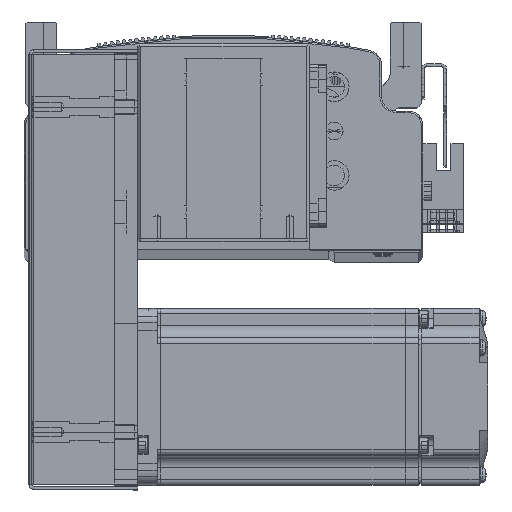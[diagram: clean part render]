
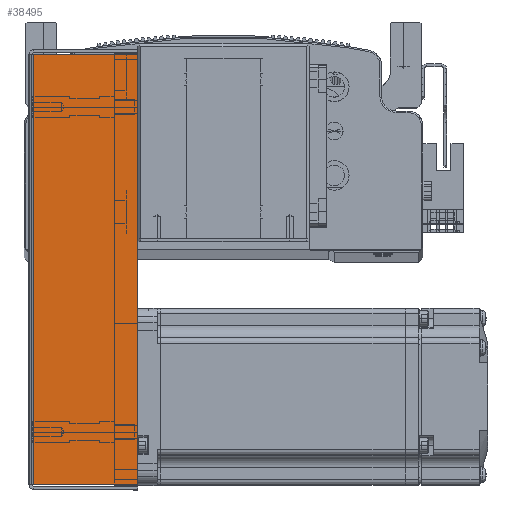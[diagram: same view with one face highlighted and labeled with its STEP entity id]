
A CAD part, top view. The second image highlights one B-rep face of the part: STEP entity #38495.
In plain terms, the highlighted planar face has unit normal (0, 0, 1) as drawn and (0, 0, -1) by its records, which use the part's own axes.
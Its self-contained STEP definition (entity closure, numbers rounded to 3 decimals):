
#14877 = EDGE_CURVE ( 'NONE', #59257, #59327, #49044, .T. ) ;
#14894 = EDGE_CURVE ( 'NONE', #59329, #59327, #49146, .T. ) ;
#14899 = EDGE_CURVE ( 'NONE', #59321, #59257, #49157, .T. ) ;
#14903 = EDGE_CURVE ( 'NONE', #59321, #59329, #49243, .T. ) ;
#28257 = ORIENTED_EDGE ( 'NONE', *, *, #14894, .F. ) ;
#28329 = ORIENTED_EDGE ( 'NONE', *, *, #14877, .T. ) ;
#28365 = ORIENTED_EDGE ( 'NONE', *, *, #14903, .F. ) ;
#28385 = ORIENTED_EDGE ( 'NONE', *, *, #14899, .T. ) ;
#29076 = EDGE_LOOP ( 'NONE', ( #28365, #28385, #28329, #28257 ) ) ;
#38495 = ADVANCED_FACE ( 'NONE', ( #86615 ), #85854, .F. ) ;
#47912 = DIRECTION ( 'NONE',  ( 1., 0., 0. ) ) ;
#47946 = CARTESIAN_POINT ( 'NONE',  ( 0., 36., -34.5 ) ) ;
#48014 = CARTESIAN_POINT ( 'NONE',  ( 74.5, 0.737, -34.5 ) ) ;
#48045 = CARTESIAN_POINT ( 'NONE',  ( 72.793, 0., -34.5 ) ) ;
#48050 = DIRECTION ( 'NONE',  ( 0., 1., 0. ) ) ;
#48064 = DIRECTION ( 'NONE',  ( 0., 1., 0. ) ) ;
#48069 = DIRECTION ( 'NONE',  ( 1., 0., 0. ) ) ;
#48072 = CARTESIAN_POINT ( 'NONE',  ( -72.793, 0., -34.5 ) ) ;
#49044 = LINE ( 'NONE', #47946, #49132 ) ;
#49132 = VECTOR ( 'NONE', #47912, 1000. ) ;
#49146 = LINE ( 'NONE', #48045, #49195 ) ;
#49157 = LINE ( 'NONE', #48072, #49159 ) ;
#49159 = VECTOR ( 'NONE', #48050, 1000. ) ;
#49195 = VECTOR ( 'NONE', #48064, 1000. ) ;
#49220 = VECTOR ( 'NONE', #48069, 1000. ) ;
#49243 = LINE ( 'NONE', #48014, #49220 ) ;
#58502 = CARTESIAN_POINT ( 'NONE',  ( -72.793, 36., -34.5 ) ) ;
#58544 = CARTESIAN_POINT ( 'NONE',  ( -72.793, 0.737, -34.5 ) ) ;
#58554 = CARTESIAN_POINT ( 'NONE',  ( 72.793, 36., -34.5 ) ) ;
#58596 = CARTESIAN_POINT ( 'NONE',  ( 72.793, 0.737, -34.5 ) ) ;
#59257 = VERTEX_POINT ( 'NONE', #58502 ) ;
#59321 = VERTEX_POINT ( 'NONE', #58544 ) ;
#59327 = VERTEX_POINT ( 'NONE', #58554 ) ;
#59329 = VERTEX_POINT ( 'NONE', #58596 ) ;
#61513 = AXIS2_PLACEMENT_3D ( 'NONE', #85841, #85813, #85818 ) ;
#85813 = DIRECTION ( 'NONE',  ( 0., 0., 1. ) ) ;
#85818 = DIRECTION ( 'NONE',  ( 0., -1., 0. ) ) ;
#85841 = CARTESIAN_POINT ( 'NONE',  ( 0., 0., -34.5 ) ) ;
#85854 = PLANE ( 'NONE',  #61513 ) ;
#86615 = FACE_OUTER_BOUND ( 'NONE', #29076, .T. ) ;
